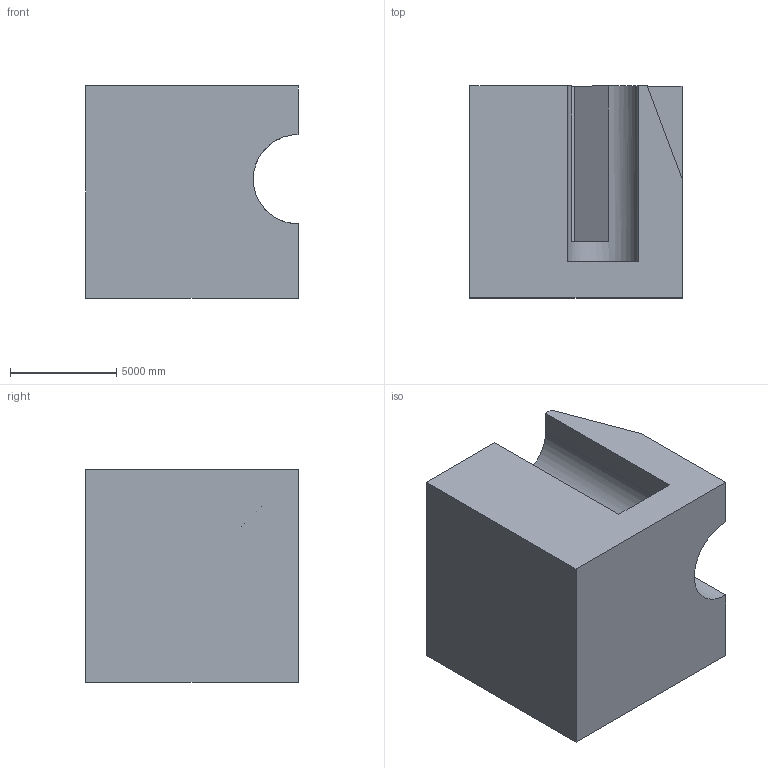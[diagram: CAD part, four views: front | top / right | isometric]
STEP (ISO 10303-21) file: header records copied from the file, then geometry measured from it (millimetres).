
FILE_DESCRIPTION (( 'STEP AP203' ), '1' );
FILE_NAME ('268.STEP', '2022-09-07T12:31:53', ( 'user' ), ( '' ), 'SwSTEP 2.0', 'SolidWorks 2021', '' );
FILE_SCHEMA (( 'CONFIG_CONTROL_DESIGN' ));
Length unit declared in the file: centimetre
Products named in the file (1): 268
Bounding box: 10000 x 10000 x 10000 mm (x, y, z)
Volume: 756863812557.2 mm3; surface area: 702350715.8 mm2
Topology: 1 solids, 1 shells, 23 faces, 63 edges, 42 vertices
Faces by surface type: plane 21, cylinder 2
Entity records: 800 total; most frequent: CARTESIAN_POINT 135, ORIENTED_EDGE 126, DIRECTION 115, EDGE_CURVE 63, LINE 55, VECTOR 55, VERTEX_POINT 42, AXIS2_PLACEMENT_3D 30
